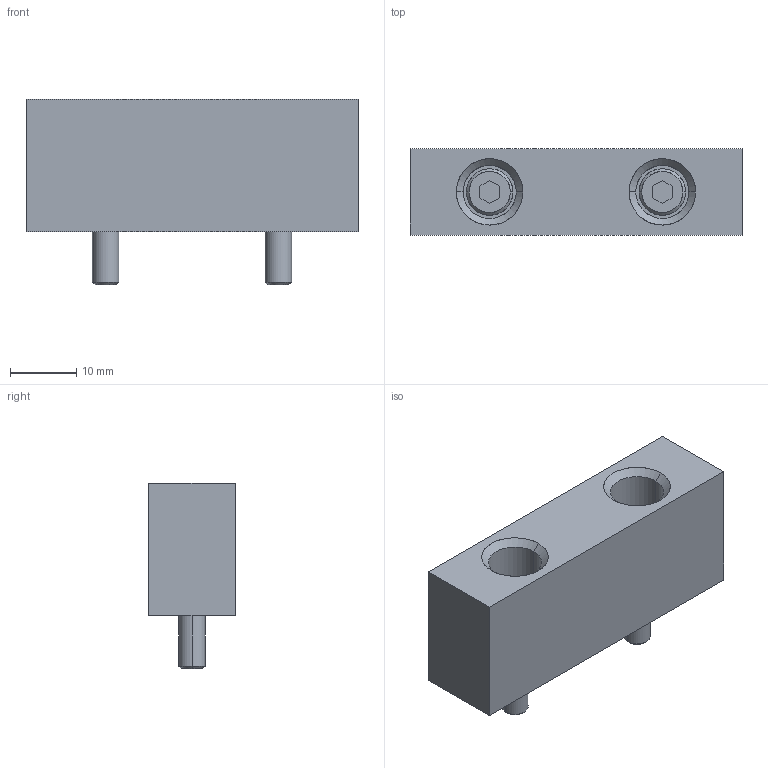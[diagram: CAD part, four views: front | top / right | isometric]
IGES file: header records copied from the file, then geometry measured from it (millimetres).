
Global section: file name: E:\UnigraphicsGraphicData\MISUMI_PRESS-PARTS\IGES\3d_sbvk13-50-20-y-15_00149_r00.igs; native system: NX V5.0; preprocessor: UGS NX IGES V5.0; author: MISUMI; date: 20110105.162509; units: millimetre
Bounding box: 50 x 13 x 28 mm (x, y, z)
Surface area: 5319.4 mm2 (no closed solid volume)
Topology: 0 solids, 0 shells, 56 faces, 336 edges, 336 vertices
Faces by surface type: bspline 56
